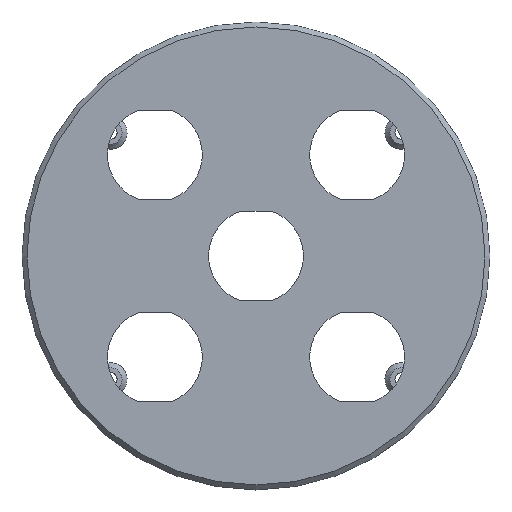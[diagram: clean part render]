
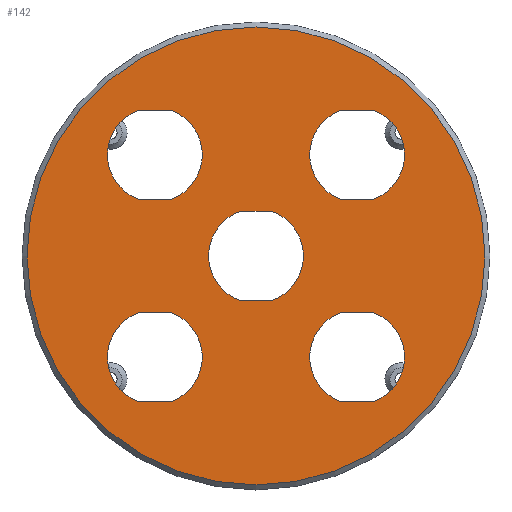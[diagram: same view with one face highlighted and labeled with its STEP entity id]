
A CAD part, top view. The second image highlights one B-rep face of the part: STEP entity #142.
In plain terms, the highlighted planar face has unit normal (0, 0, 1).
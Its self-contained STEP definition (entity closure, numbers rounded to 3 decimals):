
#64=PLANE('',#1364);
#105=FACE_BOUND('',#284,.T.);
#106=FACE_BOUND('',#285,.T.);
#107=FACE_BOUND('',#286,.T.);
#108=FACE_BOUND('',#287,.T.);
#109=FACE_BOUND('',#288,.T.);
#110=FACE_BOUND('',#289,.T.);
#142=ADVANCED_FACE('',(#105,#106,#107,#108,#109,#110),#64,.T.);
#284=EDGE_LOOP('',(#640));
#285=EDGE_LOOP('',(#641,#642,#643,#644));
#286=EDGE_LOOP('',(#645,#646,#647,#648));
#287=EDGE_LOOP('',(#649,#650,#651,#652));
#288=EDGE_LOOP('',(#653,#654,#655,#656));
#289=EDGE_LOOP('',(#657,#658,#659,#660));
#434=CIRCLE('',#1353,46.);
#435=CIRCLE('',#1354,9.522);
#436=CIRCLE('',#1355,9.522);
#437=CIRCLE('',#1356,9.522);
#438=CIRCLE('',#1357,9.522);
#439=CIRCLE('',#1358,9.522);
#440=CIRCLE('',#1359,9.522);
#441=CIRCLE('',#1360,9.522);
#442=CIRCLE('',#1361,9.522);
#443=CIRCLE('',#1362,9.522);
#444=CIRCLE('',#1363,9.522);
#640=ORIENTED_EDGE('',*,*,#1084,.T.);
#641=ORIENTED_EDGE('',*,*,#1085,.F.);
#642=ORIENTED_EDGE('',*,*,#1086,.F.);
#643=ORIENTED_EDGE('',*,*,#1087,.F.);
#644=ORIENTED_EDGE('',*,*,#1088,.F.);
#645=ORIENTED_EDGE('',*,*,#1089,.F.);
#646=ORIENTED_EDGE('',*,*,#1090,.F.);
#647=ORIENTED_EDGE('',*,*,#1091,.F.);
#648=ORIENTED_EDGE('',*,*,#1092,.F.);
#649=ORIENTED_EDGE('',*,*,#1093,.F.);
#650=ORIENTED_EDGE('',*,*,#1094,.F.);
#651=ORIENTED_EDGE('',*,*,#1095,.F.);
#652=ORIENTED_EDGE('',*,*,#1096,.F.);
#653=ORIENTED_EDGE('',*,*,#1097,.F.);
#654=ORIENTED_EDGE('',*,*,#1098,.F.);
#655=ORIENTED_EDGE('',*,*,#1099,.F.);
#656=ORIENTED_EDGE('',*,*,#1100,.F.);
#657=ORIENTED_EDGE('',*,*,#1101,.F.);
#658=ORIENTED_EDGE('',*,*,#1102,.F.);
#659=ORIENTED_EDGE('',*,*,#1103,.F.);
#660=ORIENTED_EDGE('',*,*,#1104,.F.);
#931=VERTEX_POINT('',#2063);
#932=VERTEX_POINT('',#2065);
#933=VERTEX_POINT('',#2066);
#934=VERTEX_POINT('',#2068);
#935=VERTEX_POINT('',#2070);
#936=VERTEX_POINT('',#2073);
#937=VERTEX_POINT('',#2074);
#938=VERTEX_POINT('',#2076);
#939=VERTEX_POINT('',#2078);
#940=VERTEX_POINT('',#2081);
#941=VERTEX_POINT('',#2082);
#942=VERTEX_POINT('',#2084);
#943=VERTEX_POINT('',#2086);
#944=VERTEX_POINT('',#2089);
#945=VERTEX_POINT('',#2090);
#946=VERTEX_POINT('',#2092);
#947=VERTEX_POINT('',#2094);
#948=VERTEX_POINT('',#2097);
#949=VERTEX_POINT('',#2098);
#950=VERTEX_POINT('',#2100);
#951=VERTEX_POINT('',#2102);
#1084=EDGE_CURVE('',#931,#931,#434,.T.);
#1085=EDGE_CURVE('',#932,#933,#1199,.T.);
#1086=EDGE_CURVE('',#934,#932,#435,.T.);
#1087=EDGE_CURVE('',#935,#934,#1200,.T.);
#1088=EDGE_CURVE('',#933,#935,#436,.T.);
#1089=EDGE_CURVE('',#936,#937,#1201,.T.);
#1090=EDGE_CURVE('',#938,#936,#437,.T.);
#1091=EDGE_CURVE('',#939,#938,#1202,.T.);
#1092=EDGE_CURVE('',#937,#939,#438,.T.);
#1093=EDGE_CURVE('',#940,#941,#1203,.T.);
#1094=EDGE_CURVE('',#942,#940,#439,.T.);
#1095=EDGE_CURVE('',#943,#942,#1204,.T.);
#1096=EDGE_CURVE('',#941,#943,#440,.T.);
#1097=EDGE_CURVE('',#944,#945,#1205,.T.);
#1098=EDGE_CURVE('',#946,#944,#441,.T.);
#1099=EDGE_CURVE('',#947,#946,#1206,.T.);
#1100=EDGE_CURVE('',#945,#947,#442,.T.);
#1101=EDGE_CURVE('',#948,#949,#1207,.T.);
#1102=EDGE_CURVE('',#950,#948,#443,.T.);
#1103=EDGE_CURVE('',#951,#950,#1208,.T.);
#1104=EDGE_CURVE('',#949,#951,#444,.T.);
#1199=LINE('',#2064,#1255);
#1200=LINE('',#2069,#1256);
#1201=LINE('',#2072,#1257);
#1202=LINE('',#2077,#1258);
#1203=LINE('',#2080,#1259);
#1204=LINE('',#2085,#1260);
#1205=LINE('',#2088,#1261);
#1206=LINE('',#2093,#1262);
#1207=LINE('',#2096,#1263);
#1208=LINE('',#2101,#1264);
#1255=VECTOR('',#1634,1.);
#1256=VECTOR('',#1637,1.);
#1257=VECTOR('',#1640,1.);
#1258=VECTOR('',#1643,1.);
#1259=VECTOR('',#1646,1.);
#1260=VECTOR('',#1649,1.);
#1261=VECTOR('',#1652,1.);
#1262=VECTOR('',#1655,1.);
#1263=VECTOR('',#1658,1.);
#1264=VECTOR('',#1661,1.);
#1353=AXIS2_PLACEMENT_3D('',#2062,#1632,#1633);
#1354=AXIS2_PLACEMENT_3D('',#2067,#1635,#1636);
#1355=AXIS2_PLACEMENT_3D('',#2071,#1638,#1639);
#1356=AXIS2_PLACEMENT_3D('',#2075,#1641,#1642);
#1357=AXIS2_PLACEMENT_3D('',#2079,#1644,#1645);
#1358=AXIS2_PLACEMENT_3D('',#2083,#1647,#1648);
#1359=AXIS2_PLACEMENT_3D('',#2087,#1650,#1651);
#1360=AXIS2_PLACEMENT_3D('',#2091,#1653,#1654);
#1361=AXIS2_PLACEMENT_3D('',#2095,#1656,#1657);
#1362=AXIS2_PLACEMENT_3D('',#2099,#1659,#1660);
#1363=AXIS2_PLACEMENT_3D('',#2103,#1662,#1663);
#1364=AXIS2_PLACEMENT_3D('',#2104,#1664,#1665);
#1632=DIRECTION('',(0.,0.,1.));
#1633=DIRECTION('',(1.,0.,0.));
#1634=DIRECTION('',(1.,0.,0.));
#1635=DIRECTION('',(0.,0.,1.));
#1636=DIRECTION('',(-1.,0.,0.));
#1637=DIRECTION('',(-1.,0.,0.));
#1638=DIRECTION('',(0.,0.,1.));
#1639=DIRECTION('',(-1.,0.,0.));
#1640=DIRECTION('',(1.,0.,0.));
#1641=DIRECTION('',(0.,0.,1.));
#1642=DIRECTION('',(1.,0.,0.));
#1643=DIRECTION('',(-1.,0.,0.));
#1644=DIRECTION('',(0.,0.,1.));
#1645=DIRECTION('',(1.,0.,0.));
#1646=DIRECTION('',(-1.,0.,0.));
#1647=DIRECTION('',(0.,0.,1.));
#1648=DIRECTION('',(-1.,0.,0.));
#1649=DIRECTION('',(1.,0.,0.));
#1650=DIRECTION('',(0.,0.,1.));
#1651=DIRECTION('',(-1.,0.,0.));
#1652=DIRECTION('',(-1.,0.,0.));
#1653=DIRECTION('',(0.,0.,1.));
#1654=DIRECTION('',(1.,0.,0.));
#1655=DIRECTION('',(1.,0.,0.));
#1656=DIRECTION('',(0.,0.,1.));
#1657=DIRECTION('',(1.,0.,0.));
#1658=DIRECTION('',(-1.,0.,0.));
#1659=DIRECTION('',(0.,0.,1.));
#1660=DIRECTION('',(1.,0.,0.));
#1661=DIRECTION('',(1.,0.,0.));
#1662=DIRECTION('',(0.,0.,1.));
#1663=DIRECTION('',(1.,0.,0.));
#1664=DIRECTION('',(0.,0.,1.));
#1665=DIRECTION('',(1.,0.,0.));
#2062=CARTESIAN_POINT('',(0.,0.,9.5));
#2063=CARTESIAN_POINT('',(46.,0.,9.5));
#2064=CARTESIAN_POINT('',(9.706,-29.32,9.5));
#2065=CARTESIAN_POINT('',(17.21,-29.32,9.5));
#2066=CARTESIAN_POINT('',(23.43,-29.32,9.5));
#2067=CARTESIAN_POINT('',(20.32,-20.32,9.5));
#2068=CARTESIAN_POINT('',(17.21,-11.32,9.5));
#2069=CARTESIAN_POINT('',(30.934,-11.32,9.5));
#2070=CARTESIAN_POINT('',(23.43,-11.32,9.5));
#2071=CARTESIAN_POINT('',(20.32,-20.32,9.5));
#2072=CARTESIAN_POINT('',(-9.706,-29.32,9.5));
#2073=CARTESIAN_POINT('',(-23.43,-29.32,9.5));
#2074=CARTESIAN_POINT('',(-17.21,-29.32,9.5));
#2075=CARTESIAN_POINT('',(-20.32,-20.32,9.5));
#2076=CARTESIAN_POINT('',(-23.43,-11.32,9.5));
#2077=CARTESIAN_POINT('',(-30.934,-11.32,9.5));
#2078=CARTESIAN_POINT('',(-17.21,-11.32,9.5));
#2079=CARTESIAN_POINT('',(-20.32,-20.32,9.5));
#2080=CARTESIAN_POINT('',(9.706,29.32,9.5));
#2081=CARTESIAN_POINT('',(23.43,29.32,9.5));
#2082=CARTESIAN_POINT('',(17.21,29.32,9.5));
#2083=CARTESIAN_POINT('',(20.32,20.32,9.5));
#2084=CARTESIAN_POINT('',(23.43,11.32,9.5));
#2085=CARTESIAN_POINT('',(30.934,11.32,9.5));
#2086=CARTESIAN_POINT('',(17.21,11.32,9.5));
#2087=CARTESIAN_POINT('',(20.32,20.32,9.5));
#2088=CARTESIAN_POINT('',(10.614,9.,9.5));
#2089=CARTESIAN_POINT('',(3.11,9.,9.5));
#2090=CARTESIAN_POINT('',(-3.11,9.,9.5));
#2091=CARTESIAN_POINT('',(0.,0.,9.5));
#2092=CARTESIAN_POINT('',(3.11,-9.,9.5));
#2093=CARTESIAN_POINT('',(-10.614,-9.,9.5));
#2094=CARTESIAN_POINT('',(-3.11,-9.,9.5));
#2095=CARTESIAN_POINT('',(0.,0.,9.5));
#2096=CARTESIAN_POINT('',(-9.706,29.32,9.5));
#2097=CARTESIAN_POINT('',(-17.21,29.32,9.5));
#2098=CARTESIAN_POINT('',(-23.43,29.32,9.5));
#2099=CARTESIAN_POINT('',(-20.32,20.32,9.5));
#2100=CARTESIAN_POINT('',(-17.21,11.32,9.5));
#2101=CARTESIAN_POINT('',(-30.934,11.32,9.5));
#2102=CARTESIAN_POINT('',(-23.43,11.32,9.5));
#2103=CARTESIAN_POINT('',(-20.32,20.32,9.5));
#2104=CARTESIAN_POINT('',(0.,0.,9.5));
